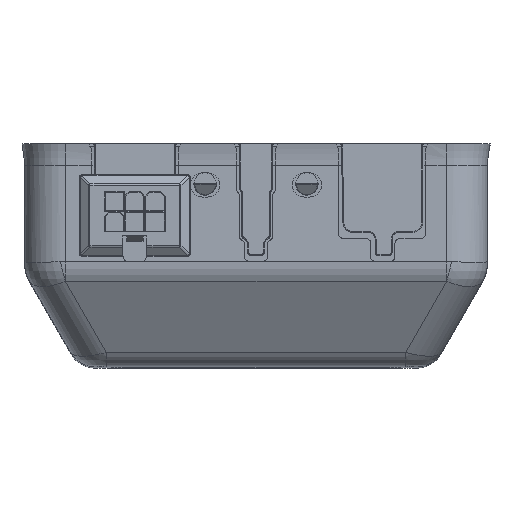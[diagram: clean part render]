
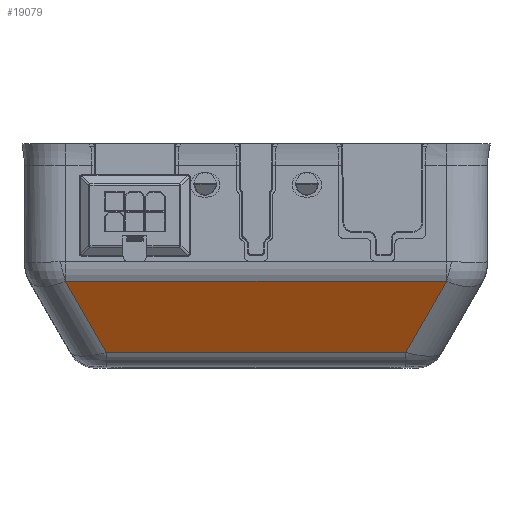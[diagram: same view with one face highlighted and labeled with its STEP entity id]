
A CAD part, top view. The second image highlights one B-rep face of the part: STEP entity #19079.
In plain terms, the highlighted planar face has unit normal (0, -0.5, 0.866).
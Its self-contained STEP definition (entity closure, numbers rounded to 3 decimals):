
#5913=CARTESIAN_POINT('',(39.25,-28.356,146.128));
#5914=CARTESIAN_POINT('',(39.261,-28.356,146.128));
#5915=CARTESIAN_POINT('',(39.282,-28.358,146.128));
#5916=CARTESIAN_POINT('',(39.303,-28.361,146.126));
#5917=CARTESIAN_POINT('',(39.313,-28.363,146.124));
#5919=DIRECTION('',(-0.447,-0.775,-0.447));
#5920=VECTOR('',#5919,18.896);
#5921=CARTESIAN_POINT('',(39.313,-28.363,146.124));
#5922=LINE('',#5921,#5920);
#5923=DIRECTION('',(1.,0.,0.));
#5924=VECTOR('',#5923,61.725);
#5925=CARTESIAN_POINT('',(-30.863,-43.,
137.674));
#5926=LINE('',#5925,#5924);
#5927=DIRECTION('',(-0.447,0.775,0.447));
#5928=VECTOR('',#5927,18.896);
#5929=CARTESIAN_POINT('',(-30.863,-43.,
137.674));
#5930=LINE('',#5929,#5928);
#5931=CARTESIAN_POINT('',(-39.313,-28.363,
146.124));
#5932=CARTESIAN_POINT('',(-39.303,-28.361,
146.126));
#5933=CARTESIAN_POINT('',(-39.282,-28.358,
146.128));
#5934=CARTESIAN_POINT('',(-39.261,-28.356,
146.128));
#5935=CARTESIAN_POINT('',(-39.25,-28.356,146.128));
#5937=DIRECTION('',(1.,0.,0.));
#5938=VECTOR('',#5937,78.5);
#5939=CARTESIAN_POINT('',(-39.25,-28.356,146.128));
#5940=LINE('',#5939,#5938);
#8493=CARTESIAN_POINT('',(-30.863,-43.,
137.674));
#8494=CARTESIAN_POINT('',(30.863,-43.,137.674));
#8495=VERTEX_POINT('',#8493);
#8496=VERTEX_POINT('',#8494);
#8517=VERTEX_POINT('',#5913);
#8518=VERTEX_POINT('',#5917);
#8521=CARTESIAN_POINT('',(-39.25,-28.356,146.128));
#8522=VERTEX_POINT('',#8521);
#8524=VERTEX_POINT('',#5931);
#19064=CARTESIAN_POINT('',(-48.,-46.,135.942));
#19065=DIRECTION('',(0.,0.5,-0.866));
#19066=DIRECTION('',(0.,0.866,0.5));
#19067=AXIS2_PLACEMENT_3D('',#19064,#19065,#19066);
#19068=PLANE('',#19067);
#19069=ORIENTED_EDGE('',*,*,#18345,.T.);
#19071=ORIENTED_EDGE('',*,*,#19070,.T.);
#19073=ORIENTED_EDGE('',*,*,#19072,.F.);
#19074=ORIENTED_EDGE('',*,*,#18977,.T.);
#19075=ORIENTED_EDGE('',*,*,#18295,.T.);
#19076=ORIENTED_EDGE('',*,*,#18310,.T.);
#19077=EDGE_LOOP('',(#19069,#19071,#19073,#19074,#19075,#19076));
#19078=FACE_OUTER_BOUND('',#19077,.F.);
#5918=B_SPLINE_CURVE_WITH_KNOTS('',3,(#5913,#5914,#5915,#5916,#5917),
.UNSPECIFIED.,.F.,.F.,(4,1,4),(0.,0.5,1.),.UNSPECIFIED.);
#5936=B_SPLINE_CURVE_WITH_KNOTS('',3,(#5931,#5932,#5933,#5934,#5935),
.UNSPECIFIED.,.F.,.F.,(4,1,4),(0.,0.5,1.),.UNSPECIFIED.);
#18295=EDGE_CURVE('',#8524,#8522,#5936,.T.);
#18310=EDGE_CURVE('',#8522,#8517,#5940,.T.);
#18345=EDGE_CURVE('',#8517,#8518,#5918,.T.);
#18977=EDGE_CURVE('',#8495,#8524,#5930,.T.);
#19070=EDGE_CURVE('',#8518,#8496,#5922,.T.);
#19072=EDGE_CURVE('',#8495,#8496,#5926,.T.);
#19079=ADVANCED_FACE('',(#19078),#19068,.F.);
